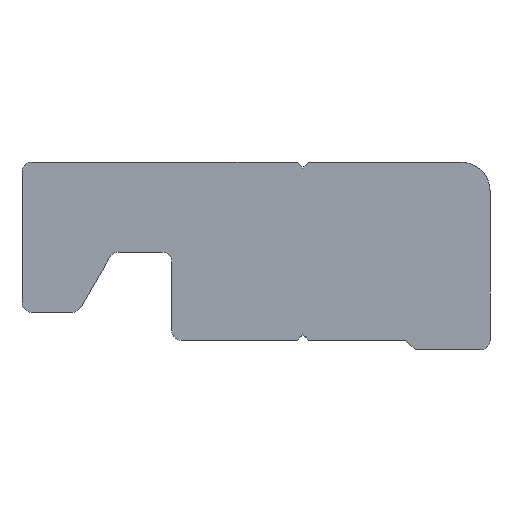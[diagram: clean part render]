
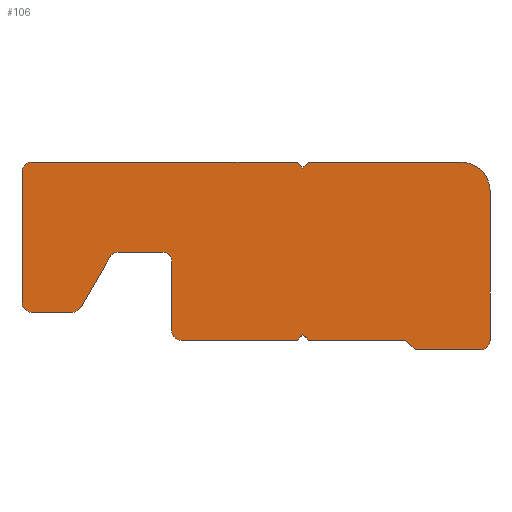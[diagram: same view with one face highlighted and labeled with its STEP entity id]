
A CAD part, front view. The second image highlights one B-rep face of the part: STEP entity #106.
In plain terms, the highlighted planar face has unit normal (0, -1, 0).
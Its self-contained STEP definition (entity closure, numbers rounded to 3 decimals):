
#106=ADVANCED_FACE('',(#228),#229,.T.);
#228=FACE_OUTER_BOUND('',#361,.T.);
#229=PLANE('',#362);
#361=EDGE_LOOP('',(#624,#625,#626,#627,#628,#629,#630,#631,#632,#633,#634,#635,#636,#637,#638,#639,#640,#641,#642,#643,#644,#645,#646,#647));
#362=AXIS2_PLACEMENT_3D('',#648,#649,#650);
#624=ORIENTED_EDGE('',*,*,#896,.T.);
#625=ORIENTED_EDGE('',*,*,#914,.T.);
#626=ORIENTED_EDGE('',*,*,#915,.T.);
#627=ORIENTED_EDGE('',*,*,#883,.T.);
#628=ORIENTED_EDGE('',*,*,#853,.T.);
#629=ORIENTED_EDGE('',*,*,#862,.T.);
#630=ORIENTED_EDGE('',*,*,#875,.T.);
#631=ORIENTED_EDGE('',*,*,#812,.T.);
#632=ORIENTED_EDGE('',*,*,#916,.T.);
#633=ORIENTED_EDGE('',*,*,#892,.T.);
#634=ORIENTED_EDGE('',*,*,#878,.T.);
#635=ORIENTED_EDGE('',*,*,#917,.T.);
#636=ORIENTED_EDGE('',*,*,#900,.T.);
#637=ORIENTED_EDGE('',*,*,#918,.T.);
#638=ORIENTED_EDGE('',*,*,#919,.T.);
#639=ORIENTED_EDGE('',*,*,#920,.T.);
#640=ORIENTED_EDGE('',*,*,#921,.T.);
#641=ORIENTED_EDGE('',*,*,#922,.T.);
#642=ORIENTED_EDGE('',*,*,#923,.T.);
#643=ORIENTED_EDGE('',*,*,#912,.T.);
#644=ORIENTED_EDGE('',*,*,#924,.T.);
#645=ORIENTED_EDGE('',*,*,#807,.T.);
#646=ORIENTED_EDGE('',*,*,#856,.T.);
#647=ORIENTED_EDGE('',*,*,#925,.T.);
#648=CARTESIAN_POINT('',(15.5,0.,3.3));
#649=DIRECTION('',(0.0,-1.0,0.0));
#650=DIRECTION('',(1.0,0.0,0.0));
#807=EDGE_CURVE('',#962,#960,#963,.T.);
#812=EDGE_CURVE('',#971,#969,#972,.T.);
#853=EDGE_CURVE('',#1033,#1043,#1045,.T.);
#856=EDGE_CURVE('',#960,#1047,#1049,.T.);
#862=EDGE_CURVE('',#1043,#1055,#1057,.T.);
#875=EDGE_CURVE('',#1055,#971,#1077,.T.);
#878=EDGE_CURVE('',#1081,#1079,#1082,.T.);
#883=EDGE_CURVE('',#1085,#1033,#1089,.T.);
#892=EDGE_CURVE('',#1103,#1081,#1104,.T.);
#896=EDGE_CURVE('',#1109,#1107,#1110,.T.);
#900=EDGE_CURVE('',#1115,#1113,#1116,.T.);
#912=EDGE_CURVE('',#1127,#1130,#1132,.T.);
#914=EDGE_CURVE('',#1107,#1134,#1135,.T.);
#915=EDGE_CURVE('',#1134,#1085,#1136,.T.);
#916=EDGE_CURVE('',#969,#1103,#1137,.T.);
#917=EDGE_CURVE('',#1079,#1115,#1138,.T.);
#918=EDGE_CURVE('',#1113,#1139,#1140,.T.);
#919=EDGE_CURVE('',#1139,#1141,#1142,.T.);
#920=EDGE_CURVE('',#1141,#1143,#1144,.T.);
#921=EDGE_CURVE('',#1143,#1145,#1146,.T.);
#922=EDGE_CURVE('',#1145,#1147,#1148,.T.);
#923=EDGE_CURVE('',#1147,#1127,#1149,.T.);
#924=EDGE_CURVE('',#1130,#962,#1150,.T.);
#925=EDGE_CURVE('',#1047,#1109,#1151,.T.);
#960=VERTEX_POINT('',#1189);
#962=VERTEX_POINT('',#1192);
#963=LINE('',#1193,#1194);
#969=VERTEX_POINT('',#1201);
#971=VERTEX_POINT('',#1204);
#972=CIRCLE('',#1205,0.5);
#1033=VERTEX_POINT('',#1286);
#1043=VERTEX_POINT('',#1299);
#1045=LINE('',#1302,#1303);
#1047=VERTEX_POINT('',#1305);
#1049=CIRCLE('',#1308,0.5);
#1055=VERTEX_POINT('',#1315);
#1057=CIRCLE('',#1318,0.5);
#1077=LINE('',#1340,#1341);
#1079=VERTEX_POINT('',#1343);
#1081=VERTEX_POINT('',#1346);
#1082=LINE('',#1347,#1348);
#1085=VERTEX_POINT('',#1352);
#1089=LINE('',#1357,#1358);
#1103=VERTEX_POINT('',#1372);
#1104=CIRCLE('',#1373,0.5);
#1107=VERTEX_POINT('',#1377);
#1109=VERTEX_POINT('',#1380);
#1110=CIRCLE('',#1381,1.5);
#1113=VERTEX_POINT('',#1385);
#1115=VERTEX_POINT('',#1388);
#1116=LINE('',#1389,#1390);
#1127=VERTEX_POINT('',#1402);
#1130=VERTEX_POINT('',#1407);
#1132=LINE('',#1410,#1411);
#1134=VERTEX_POINT('',#1413);
#1135=LINE('',#1414,#1415);
#1136=LINE('',#1416,#1417);
#1137=LINE('',#1418,#1419);
#1138=CIRCLE('',#1420,0.5);
#1139=VERTEX_POINT('',#1421);
#1140=CIRCLE('',#1422,0.5);
#1141=VERTEX_POINT('',#1423);
#1142=LINE('',#1424,#1425);
#1143=VERTEX_POINT('',#1426);
#1144=CIRCLE('',#1427,0.5);
#1145=VERTEX_POINT('',#1428);
#1146=LINE('',#1429,#1430);
#1147=VERTEX_POINT('',#1431);
#1148=LINE('',#1432,#1433);
#1149=LINE('',#1434,#1435);
#1150=LINE('',#1436,#1437);
#1151=LINE('',#1438,#1439);
#1189=CARTESIAN_POINT('',(16.5,0.,-5.2));
#1192=CARTESIAN_POINT('',(13.,0.,-5.2));
#1193=CARTESIAN_POINT('',(13.,0.,-5.2));
#1194=VECTOR('',#1482,1.0);
#1201=CARTESIAN_POINT('',(-7.5,0.,-3.2));
#1204=CARTESIAN_POINT('',(-8.,0.,-2.7));
#1205=AXIS2_PLACEMENT_3D('',#1488,#1489,#1490);
#1286=CARTESIAN_POINT('',(6.7,0.,4.8));
#1299=CARTESIAN_POINT('',(-7.5,0.,4.8));
#1302=CARTESIAN_POINT('',(6.7,0.,4.8));
#1303=VECTOR('',#1551,1.0);
#1305=CARTESIAN_POINT('',(17.,0.,-4.7));
#1308=AXIS2_PLACEMENT_3D('',#1553,#1554,#1555);
#1315=CARTESIAN_POINT('',(-8.,0.,4.3));
#1318=AXIS2_PLACEMENT_3D('',#1561,#1562,#1563);
#1340=CARTESIAN_POINT('',(-8.,0.,4.3));
#1341=VECTOR('',#1587,1.0);
#1343=CARTESIAN_POINT('',(-3.297,0.,-0.25));
#1346=CARTESIAN_POINT('',(-4.856,0.,-2.95));
#1347=CARTESIAN_POINT('',(-4.856,0.,-2.95));
#1348=VECTOR('',#1589,1.0);
#1352=CARTESIAN_POINT('',(7.,0.,4.5));
#1357=CARTESIAN_POINT('',(7.,0.,4.5));
#1358=VECTOR('',#1595,1.0);
#1372=CARTESIAN_POINT('',(-5.289,0.,-3.2));
#1373=AXIS2_PLACEMENT_3D('',#1614,#1615,#1616);
#1377=CARTESIAN_POINT('',(15.5,0.,4.8));
#1380=CARTESIAN_POINT('',(17.,0.,3.3));
#1381=AXIS2_PLACEMENT_3D('',#1619,#1620,#1621);
#1385=CARTESIAN_POINT('',(-0.5,0.,0.));
#1388=CARTESIAN_POINT('',(-2.864,0.,0.));
#1389=CARTESIAN_POINT('',(-2.864,0.,0.));
#1390=VECTOR('',#1624,1.0);
#1402=CARTESIAN_POINT('',(7.3,0.,-4.7));
#1407=CARTESIAN_POINT('',(12.5,0.,-4.7));
#1410=CARTESIAN_POINT('',(7.3,0.,-4.7));
#1411=VECTOR('',#1641,1.0);
#1413=CARTESIAN_POINT('',(7.3,0.,4.8));
#1414=CARTESIAN_POINT('',(15.5,0.,4.8));
#1415=VECTOR('',#1642,1.0);
#1416=CARTESIAN_POINT('',(7.3,0.,4.8));
#1417=VECTOR('',#1643,1.0);
#1418=CARTESIAN_POINT('',(-7.5,0.,-3.2));
#1419=VECTOR('',#1644,1.0);
#1420=AXIS2_PLACEMENT_3D('',#1645,#1646,#1647);
#1421=CARTESIAN_POINT('',(0.,0.,-0.5));
#1422=AXIS2_PLACEMENT_3D('',#1648,#1649,#1650);
#1423=CARTESIAN_POINT('',(0.,0.,-4.2));
#1424=CARTESIAN_POINT('',(0.,0.,-0.5));
#1425=VECTOR('',#1651,1.0);
#1426=CARTESIAN_POINT('',(0.5,0.,-4.7));
#1427=AXIS2_PLACEMENT_3D('',#1652,#1653,#1654);
#1428=CARTESIAN_POINT('',(6.7,0.,-4.7));
#1429=CARTESIAN_POINT('',(0.5,0.,-4.7));
#1430=VECTOR('',#1655,1.0);
#1431=CARTESIAN_POINT('',(7.,0.,-4.4));
#1432=CARTESIAN_POINT('',(6.7,0.,-4.7));
#1433=VECTOR('',#1656,1.0);
#1434=CARTESIAN_POINT('',(7.,0.,-4.4));
#1435=VECTOR('',#1657,1.0);
#1436=CARTESIAN_POINT('',(12.5,0.,-4.7));
#1437=VECTOR('',#1658,1.0);
#1438=CARTESIAN_POINT('',(17.,0.,-4.7));
#1439=VECTOR('',#1659,1.0);
#1482=DIRECTION('',(1.0,0.0,0.0));
#1488=CARTESIAN_POINT('',(-7.5,0.,-2.7));
#1489=DIRECTION('',(0.0,-1.0,0.0));
#1490=DIRECTION('',(1.0,0.0,0.0));
#1551=DIRECTION('',(-1.0,0.0,0.0));
#1553=CARTESIAN_POINT('',(16.5,0.,-4.7));
#1554=DIRECTION('',(0.0,-1.0,0.0));
#1555=DIRECTION('',(1.0,0.0,0.0));
#1561=CARTESIAN_POINT('',(-7.5,0.,4.3));
#1562=DIRECTION('',(0.0,-1.0,0.0));
#1563=DIRECTION('',(1.0,0.0,0.0));
#1587=DIRECTION('',(0.0,0.0,-1.0));
#1589=DIRECTION('',(0.5,0.0,0.866));
#1595=DIRECTION('',(-0.707,0.0,0.707));
#1614=CARTESIAN_POINT('',(-5.289,0.,-2.7));
#1615=DIRECTION('',(0.0,-1.0,0.0));
#1616=DIRECTION('',(1.0,0.0,0.0));
#1619=CARTESIAN_POINT('',(15.5,0.,3.3));
#1620=DIRECTION('',(0.0,-1.0,0.0));
#1621=DIRECTION('',(1.0,0.0,0.0));
#1624=DIRECTION('',(1.0,0.0,0.0));
#1641=DIRECTION('',(1.0,0.0,0.0));
#1642=DIRECTION('',(-1.0,0.0,0.0));
#1643=DIRECTION('',(-0.707,0.0,-0.707));
#1644=DIRECTION('',(1.0,0.0,0.0));
#1645=CARTESIAN_POINT('',(-2.864,0.,-0.5));
#1646=DIRECTION('',(0.0,1.0,0.0));
#1647=DIRECTION('',(-1.0,0.0,0.0));
#1648=CARTESIAN_POINT('',(-0.5,0.,-0.5));
#1649=DIRECTION('',(0.0,1.0,0.0));
#1650=DIRECTION('',(-1.0,0.0,0.0));
#1651=DIRECTION('',(0.0,0.0,-1.0));
#1652=CARTESIAN_POINT('',(0.5,0.,-4.2));
#1653=DIRECTION('',(0.0,-1.0,0.0));
#1654=DIRECTION('',(1.0,0.0,0.0));
#1655=DIRECTION('',(1.0,0.0,0.0));
#1656=DIRECTION('',(0.707,0.0,0.707));
#1657=DIRECTION('',(0.707,0.0,-0.707));
#1658=DIRECTION('',(0.707,0.0,-0.707));
#1659=DIRECTION('',(0.0,0.0,1.0));
